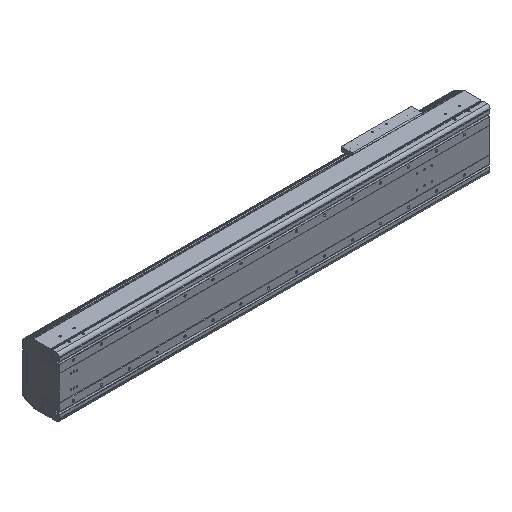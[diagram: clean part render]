
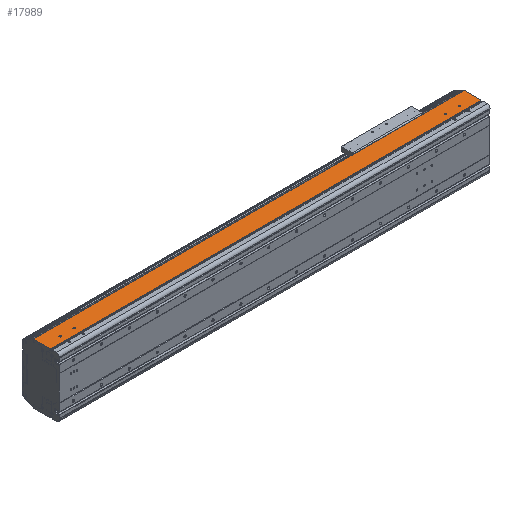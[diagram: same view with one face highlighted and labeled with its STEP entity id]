
A CAD part, isometric view. The second image highlights one B-rep face of the part: STEP entity #17989.
In plain terms, the highlighted planar face has unit normal (0, 0, 1).
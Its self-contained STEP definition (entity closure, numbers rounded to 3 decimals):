
#506=DIRECTION('',(0.,-1.,0.));
#507=VECTOR('',#506,2.55);
#508=CARTESIAN_POINT('',(0.,34.65,107.));
#509=LINE('',#508,#507);
#2129=DIRECTION('',(1.,0.,0.));
#2130=VECTOR('',#2129,2.);
#2131=CARTESIAN_POINT('',(0.,34.65,107.));
#2132=LINE('',#2131,#2130);
#2137=CARTESIAN_POINT('',(-54.5,54.,107.));
#2138=DIRECTION('',(0.,0.,-1.));
#2139=DIRECTION('',(1.,0.,0.));
#2140=AXIS2_PLACEMENT_3D('',#2137,#2138,#2139);
#2142=CARTESIAN_POINT('',(-54.5,54.,107.));
#2143=DIRECTION('',(0.,0.,-1.));
#2144=DIRECTION('',(-1.,0.,0.));
#2145=AXIS2_PLACEMENT_3D('',#2142,#2143,#2144);
#2147=CARTESIAN_POINT('',(-104.5,54.,107.));
#2148=DIRECTION('',(0.,0.,-1.));
#2149=DIRECTION('',(1.,0.,0.));
#2150=AXIS2_PLACEMENT_3D('',#2147,#2148,#2149);
#2152=CARTESIAN_POINT('',(-104.5,54.,107.));
#2153=DIRECTION('',(0.,0.,-1.));
#2154=DIRECTION('',(-1.,0.,0.));
#2155=AXIS2_PLACEMENT_3D('',#2152,#2153,#2154);
#2157=CARTESIAN_POINT('',(-1484.5,54.,107.));
#2158=DIRECTION('',(0.,0.,-1.));
#2159=DIRECTION('',(1.,0.,0.));
#2160=AXIS2_PLACEMENT_3D('',#2157,#2158,#2159);
#2162=CARTESIAN_POINT('',(-1484.5,54.,107.));
#2163=DIRECTION('',(0.,0.,-1.));
#2164=DIRECTION('',(-1.,0.,0.));
#2165=AXIS2_PLACEMENT_3D('',#2162,#2163,#2164);
#2167=CARTESIAN_POINT('',(-1434.5,54.,107.));
#2168=DIRECTION('',(0.,0.,-1.));
#2169=DIRECTION('',(1.,0.,0.));
#2170=AXIS2_PLACEMENT_3D('',#2167,#2168,#2169);
#2172=CARTESIAN_POINT('',(-1434.5,54.,107.));
#2173=DIRECTION('',(0.,0.,-1.));
#2174=DIRECTION('',(-1.,0.,0.));
#2175=AXIS2_PLACEMENT_3D('',#2172,#2173,#2174);
#2177=DIRECTION('',(0.,-1.,0.));
#2178=VECTOR('',#2177,2.55);
#2179=CARTESIAN_POINT('',(-1539.,34.65,107.));
#2180=LINE('',#2179,#2178);
#2181=DIRECTION('',(0.,-1.,0.));
#2182=VECTOR('',#2181,58.85);
#2183=CARTESIAN_POINT('',(-1541.,93.5,107.));
#2184=LINE('',#2183,#2182);
#2185=DIRECTION('',(0.,1.,0.));
#2186=VECTOR('',#2185,58.85);
#2187=CARTESIAN_POINT('',(2.,34.65,107.));
#2188=LINE('',#2187,#2186);
#2189=DIRECTION('',(1.,0.,0.));
#2190=VECTOR('',#2189,1539.);
#2191=CARTESIAN_POINT('',(-1539.,32.1,107.));
#2192=LINE('',#2191,#2190);
#2301=DIRECTION('',(1.,0.,0.));
#2302=VECTOR('',#2301,2.);
#2303=CARTESIAN_POINT('',(-1541.,34.65,107.));
#2304=LINE('',#2303,#2302);
#2313=DIRECTION('',(-1.,0.,0.));
#2314=VECTOR('',#2313,1543.);
#2315=CARTESIAN_POINT('',(2.,93.5,107.));
#2316=LINE('',#2315,#2314);
#12199=CARTESIAN_POINT('',(-1541.,34.65,107.));
#12200=VERTEX_POINT('',#12199);
#12201=CARTESIAN_POINT('',(-1541.,93.5,107.));
#12202=VERTEX_POINT('',#12201);
#12431=CARTESIAN_POINT('',(-1539.,32.1,107.));
#12432=VERTEX_POINT('',#12431);
#12969=CARTESIAN_POINT('',(0.,32.1,107.));
#12970=VERTEX_POINT('',#12969);
#12971=CARTESIAN_POINT('',(-52.,54.,107.));
#12972=CARTESIAN_POINT('',(-57.,54.,107.));
#12973=VERTEX_POINT('',#12971);
#12974=VERTEX_POINT('',#12972);
#12975=CARTESIAN_POINT('',(-102.,54.,107.));
#12976=CARTESIAN_POINT('',(-107.,54.,107.));
#12977=VERTEX_POINT('',#12975);
#12978=VERTEX_POINT('',#12976);
#12979=CARTESIAN_POINT('',(-1482.,54.,107.));
#12980=CARTESIAN_POINT('',(-1487.,54.,107.));
#12981=VERTEX_POINT('',#12979);
#12982=VERTEX_POINT('',#12980);
#12983=CARTESIAN_POINT('',(-1432.,54.,107.));
#12984=CARTESIAN_POINT('',(-1437.,54.,107.));
#12985=VERTEX_POINT('',#12983);
#12986=VERTEX_POINT('',#12984);
#14135=CARTESIAN_POINT('',(2.,34.65,107.));
#14136=VERTEX_POINT('',#14135);
#14137=CARTESIAN_POINT('',(2.,93.5,107.));
#14138=VERTEX_POINT('',#14137);
#14481=CARTESIAN_POINT('',(0.,34.65,107.));
#14482=VERTEX_POINT('',#14481);
#14669=CARTESIAN_POINT('',(-1539.,34.65,107.));
#14670=VERTEX_POINT('',#14669);
#17947=CARTESIAN_POINT('',(-769.5,62.8,107.));
#17948=DIRECTION('',(0.,0.,1.));
#17949=DIRECTION('',(0.,-1.,0.));
#17950=AXIS2_PLACEMENT_3D('',#17947,#17948,#17949);
#17951=PLANE('',#17950);
#17952=ORIENTED_EDGE('',*,*,#15415,.F.);
#17954=ORIENTED_EDGE('',*,*,#17953,.F.);
#17955=ORIENTED_EDGE('',*,*,#16514,.F.);
#17957=ORIENTED_EDGE('',*,*,#17956,.F.);
#17958=ORIENTED_EDGE('',*,*,#17745,.F.);
#17959=ORIENTED_EDGE('',*,*,#17940,.F.);
#17960=ORIENTED_EDGE('',*,*,#16031,.T.);
#17962=ORIENTED_EDGE('',*,*,#17961,.F.);
#17963=EDGE_LOOP('',(#17952,#17954,#17955,#17957,#17958,#17959,#17960,#17962));
#17964=FACE_OUTER_BOUND('',#17963,.F.);
#17966=ORIENTED_EDGE('',*,*,#17965,.F.);
#17968=ORIENTED_EDGE('',*,*,#17967,.F.);
#17969=EDGE_LOOP('',(#17966,#17968));
#17970=FACE_BOUND('',#17969,.F.);
#17972=ORIENTED_EDGE('',*,*,#17971,.F.);
#17974=ORIENTED_EDGE('',*,*,#17973,.F.);
#17975=EDGE_LOOP('',(#17972,#17974));
#17976=FACE_BOUND('',#17975,.F.);
#17978=ORIENTED_EDGE('',*,*,#17977,.F.);
#17980=ORIENTED_EDGE('',*,*,#17979,.F.);
#17981=EDGE_LOOP('',(#17978,#17980));
#17982=FACE_BOUND('',#17981,.F.);
#17984=ORIENTED_EDGE('',*,*,#17983,.F.);
#17986=ORIENTED_EDGE('',*,*,#17985,.F.);
#17987=EDGE_LOOP('',(#17984,#17986));
#17988=FACE_BOUND('',#17987,.F.);
#17989=ADVANCED_FACE('',(#17964,#17970,#17976,#17982,#17988),#17951,.T.);
#2141=CIRCLE('',#2140,2.5);
#2146=CIRCLE('',#2145,2.5);
#2151=CIRCLE('',#2150,2.5);
#2156=CIRCLE('',#2155,2.5);
#2161=CIRCLE('',#2160,2.5);
#2166=CIRCLE('',#2165,2.5);
#2171=CIRCLE('',#2170,2.5);
#2176=CIRCLE('',#2175,2.5);
#15415=EDGE_CURVE('',#14670,#12432,#2180,.T.);
#16031=EDGE_CURVE('',#14482,#12970,#509,.T.);
#16514=EDGE_CURVE('',#12202,#12200,#2184,.T.);
#17745=EDGE_CURVE('',#14136,#14138,#2188,.T.);
#17940=EDGE_CURVE('',#14482,#14136,#2132,.T.);
#17953=EDGE_CURVE('',#12200,#14670,#2304,.T.);
#17956=EDGE_CURVE('',#14138,#12202,#2316,.T.);
#17961=EDGE_CURVE('',#12432,#12970,#2192,.T.);
#17965=EDGE_CURVE('',#12977,#12978,#2151,.T.);
#17967=EDGE_CURVE('',#12978,#12977,#2156,.T.);
#17971=EDGE_CURVE('',#12981,#12982,#2161,.T.);
#17973=EDGE_CURVE('',#12982,#12981,#2166,.T.);
#17977=EDGE_CURVE('',#12985,#12986,#2171,.T.);
#17979=EDGE_CURVE('',#12986,#12985,#2176,.T.);
#17983=EDGE_CURVE('',#12973,#12974,#2141,.T.);
#17985=EDGE_CURVE('',#12974,#12973,#2146,.T.);
